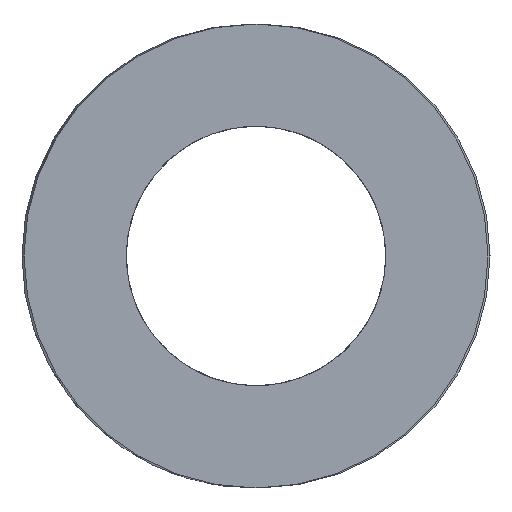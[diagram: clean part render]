
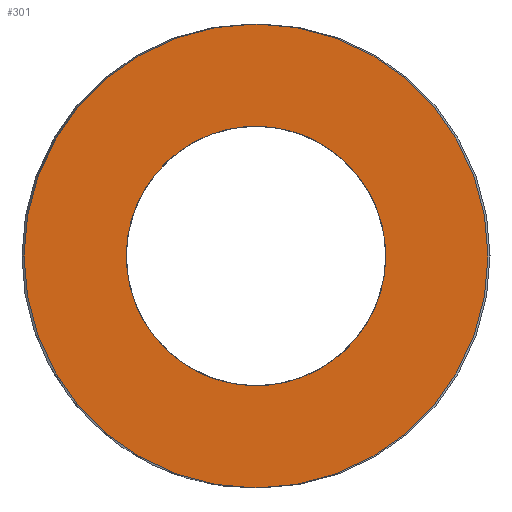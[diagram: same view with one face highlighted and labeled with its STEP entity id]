
A CAD part, left-side view. The second image highlights one B-rep face of the part: STEP entity #301.
In plain terms, the highlighted planar face has unit normal (-1, 0, 0).
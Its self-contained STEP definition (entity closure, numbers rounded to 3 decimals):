
#63=CARTESIAN_POINT('Vertex',(0.,12.25,0.)) ;
#77=CARTESIAN_POINT('Vertex',(0.,-12.25,0.)) ;
#80=CARTESIAN_POINT('Axis2P3D Location',(0.,0.,0.)) ;
#97=CARTESIAN_POINT('Axis2P3D Location',(0.,0.,0.)) ;
#232=CARTESIAN_POINT('Axis2P3D Location',(0.,6.125,0.)) ;
#242=CARTESIAN_POINT('Control Point',(0.,0.,-6.85)) ;
#243=CARTESIAN_POINT('Control Point',(0.,0.641,-6.85)) ;
#244=CARTESIAN_POINT('Control Point',(0.,1.282,-6.775)) ;
#245=CARTESIAN_POINT('Control Point',(0.,1.912,-6.625)) ;
#246=CARTESIAN_POINT('Control Point',(0.,3.124,-6.181)) ;
#247=CARTESIAN_POINT('Control Point',(0.,4.2,-5.468)) ;
#248=CARTESIAN_POINT('Control Point',(0.,4.694,-5.051)) ;
#249=CARTESIAN_POINT('Control Point',(0.,5.576,-4.107)) ;
#250=CARTESIAN_POINT('Control Point',(0.,6.215,-2.986)) ;
#251=CARTESIAN_POINT('Control Point',(0.,6.468,-2.39)) ;
#252=CARTESIAN_POINT('Control Point',(0.,6.829,-1.151)) ;
#253=CARTESIAN_POINT('Control Point',(0.,6.894,0.139)) ;
#254=CARTESIAN_POINT('Control Point',(0.,6.851,0.784)) ;
#255=CARTESIAN_POINT('Control Point',(0.,6.614,2.053)) ;
#256=CARTESIAN_POINT('Control Point',(0.,6.09,3.233)) ;
#257=CARTESIAN_POINT('Control Point',(0.,5.76,3.79)) ;
#258=CARTESIAN_POINT('Control Point',(0.,4.977,4.816)) ;
#259=CARTESIAN_POINT('Control Point',(0.,3.977,5.633)) ;
#260=CARTESIAN_POINT('Control Point',(0.,3.432,5.981)) ;
#261=CARTESIAN_POINT('Control Point',(0.,2.436,6.462)) ;
#262=CARTESIAN_POINT('Control Point',(0.,1.368,6.735)) ;
#263=CARTESIAN_POINT('Control Point',(0.,0.915,6.812)) ;
#264=CARTESIAN_POINT('Control Point',(0.,0.457,6.85)) ;
#265=CARTESIAN_POINT('Control Point',(0.,0.,6.85)) ;
#266=CARTESIAN_POINT('Vertex',(0.,0.,-6.85)) ;
#268=CARTESIAN_POINT('Vertex',(0.,0.,6.85)) ;
#272=CARTESIAN_POINT('Control Point',(0.,0.,6.85)) ;
#273=CARTESIAN_POINT('Control Point',(0.,-0.641,6.85)) ;
#274=CARTESIAN_POINT('Control Point',(0.,-1.282,6.775)) ;
#275=CARTESIAN_POINT('Control Point',(0.,-1.912,6.625)) ;
#276=CARTESIAN_POINT('Control Point',(0.,-3.124,6.181)) ;
#277=CARTESIAN_POINT('Control Point',(0.,-4.2,5.468)) ;
#278=CARTESIAN_POINT('Control Point',(0.,-4.694,5.051)) ;
#279=CARTESIAN_POINT('Control Point',(0.,-5.576,4.107)) ;
#280=CARTESIAN_POINT('Control Point',(0.,-6.215,2.986)) ;
#281=CARTESIAN_POINT('Control Point',(0.,-6.468,2.39)) ;
#282=CARTESIAN_POINT('Control Point',(0.,-6.829,1.151)) ;
#283=CARTESIAN_POINT('Control Point',(0.,-6.894,-0.139)) ;
#284=CARTESIAN_POINT('Control Point',(0.,-6.851,-0.784)) ;
#285=CARTESIAN_POINT('Control Point',(0.,-6.614,-2.053)) ;
#286=CARTESIAN_POINT('Control Point',(0.,-6.09,-3.233)) ;
#287=CARTESIAN_POINT('Control Point',(0.,-5.76,-3.79)) ;
#288=CARTESIAN_POINT('Control Point',(0.,-4.977,-4.816)) ;
#289=CARTESIAN_POINT('Control Point',(0.,-3.977,-5.633)) ;
#290=CARTESIAN_POINT('Control Point',(0.,-3.432,-5.981)) ;
#291=CARTESIAN_POINT('Control Point',(0.,-2.436,-6.462)) ;
#292=CARTESIAN_POINT('Control Point',(0.,-1.368,-6.735)) ;
#293=CARTESIAN_POINT('Control Point',(0.,-0.915,-6.812)) ;
#294=CARTESIAN_POINT('Control Point',(0.,-0.457,-6.85)) ;
#295=CARTESIAN_POINT('Control Point',(0.,0.,-6.85)) ;
#81=DIRECTION('Axis2P3D Direction',(1.,-0.,0.)) ;
#98=DIRECTION('Axis2P3D Direction',(1.,-0.,0.)) ;
#233=DIRECTION('Axis2P3D Direction',(-1.,0.,0.)) ;
#234=DIRECTION('Axis2P3D XDirection',(0.,1.,0.)) ;
#82=AXIS2_PLACEMENT_3D('Circle Axis2P3D',#80,#81,$) ;
#99=AXIS2_PLACEMENT_3D('Circle Axis2P3D',#97,#98,$) ;
#235=AXIS2_PLACEMENT_3D('Plane Axis2P3D',#232,#233,#234) ;
#238=ORIENTED_EDGE('',*,*,#84,.T.) ;
#239=ORIENTED_EDGE('',*,*,#101,.T.) ;
#298=ORIENTED_EDGE('',*,*,#270,.T.) ;
#299=ORIENTED_EDGE('',*,*,#296,.T.) ;
#300=FACE_BOUND('',#297,.T.) ;
#301=ADVANCED_FACE('392-B25-115',(#240,#300),#236,.T.) ;
#241=B_SPLINE_CURVE_WITH_KNOTS('',5,(#242,#243,#244,#245,#246,#247,#248,#249,#250,#251,#252,#253,#254,#255,#256,#257,#258,#259,#260,#261,#262,#263,#264,#265),.UNSPECIFIED.,.F.,.U.,(6,3,3,3,3,3,3,6),(0.,4.533,9.066,13.6,18.133,22.666,27.199,30.433),.UNSPECIFIED.) ;
#271=B_SPLINE_CURVE_WITH_KNOTS('',5,(#272,#273,#274,#275,#276,#277,#278,#279,#280,#281,#282,#283,#284,#285,#286,#287,#288,#289,#290,#291,#292,#293,#294,#295),.UNSPECIFIED.,.F.,.U.,(6,3,3,3,3,3,3,6),(0.,4.533,9.066,13.6,18.133,22.666,27.199,30.433),.UNSPECIFIED.) ;
#83=CIRCLE('generated circle',#82,12.25) ;
#100=CIRCLE('generated circle',#99,12.25) ;
#84=EDGE_CURVE('',#64,#78,#83,.F.) ;
#101=EDGE_CURVE('',#78,#64,#100,.F.) ;
#270=EDGE_CURVE('',#267,#269,#241,.T.) ;
#296=EDGE_CURVE('',#269,#267,#271,.T.) ;
#237=EDGE_LOOP('',(#238,#239)) ;
#297=EDGE_LOOP('',(#298,#299)) ;
#240=FACE_OUTER_BOUND('',#237,.T.) ;
#236=PLANE('Plane',#235) ;
#64=VERTEX_POINT('',#63) ;
#78=VERTEX_POINT('',#77) ;
#267=VERTEX_POINT('',#266) ;
#269=VERTEX_POINT('',#268) ;
